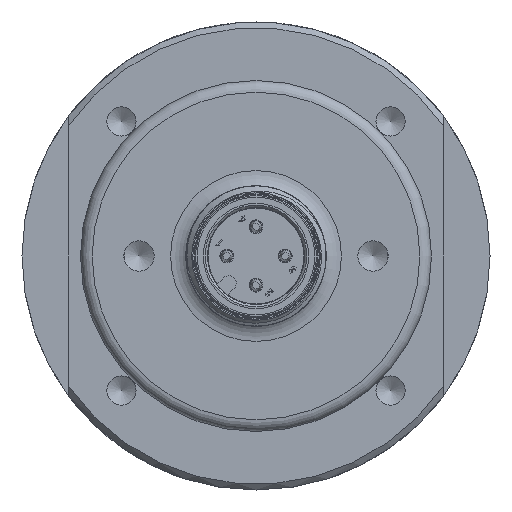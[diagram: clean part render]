
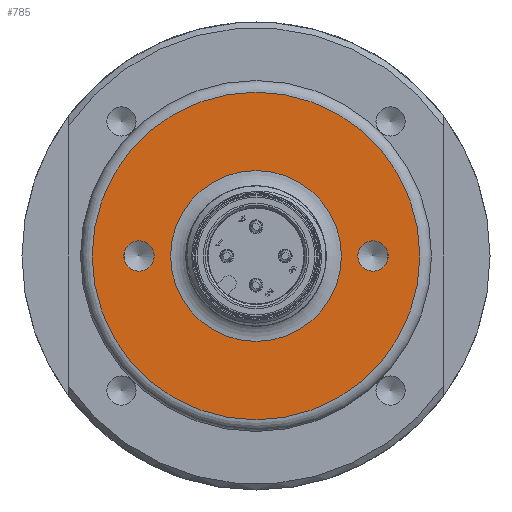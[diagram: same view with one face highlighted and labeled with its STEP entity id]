
A CAD part, front view. The second image highlights one B-rep face of the part: STEP entity #785.
In plain terms, the highlighted planar face has unit normal (0, -1, 0) as drawn and (0, 1, 0) by its records, which use the part's own axes.
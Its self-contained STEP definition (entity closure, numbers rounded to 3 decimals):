
#785 = ADVANCED_FACE( '', ( #1564, #1565, #1566, #1567 ), #1568, .T. );
#1564 = FACE_BOUND( '', #5793, .T. );
#1565 = FACE_OUTER_BOUND( '', #5794, .T. );
#1566 = FACE_BOUND( '', #5795, .T. );
#1567 = FACE_BOUND( '', #5796, .T. );
#1568 = PLANE( '', #5797 );
#5793 = EDGE_LOOP( '', ( #7882 ) );
#5794 = EDGE_LOOP( '', ( #7883 ) );
#5795 = EDGE_LOOP( '', ( #7884 ) );
#5796 = EDGE_LOOP( '', ( #7885 ) );
#5797 = AXIS2_PLACEMENT_3D( '', #7886, #7887, #7888 );
#7882 = ORIENTED_EDGE( '', *, *, #8627, .T. );
#7883 = ORIENTED_EDGE( '', *, *, #8685, .T. );
#7884 = ORIENTED_EDGE( '', *, *, #8427, .T. );
#7885 = ORIENTED_EDGE( '', *, *, #8741, .T. );
#7886 = CARTESIAN_POINT( '', ( -15., -2.104, 0. ) );
#7887 = DIRECTION( '', ( 0., 1., 0. ) );
#7888 = DIRECTION( '', ( -1., 0., 0. ) );
#8427 = EDGE_CURVE( '', #9061, #9061, #9062, .T. );
#8627 = EDGE_CURVE( '', #9397, #9397, #9398, .F. );
#8685 = EDGE_CURVE( '', #9492, #9492, #9493, .T. );
#8741 = EDGE_CURVE( '', #9578, #9578, #9579, .T. );
#9061 = VERTEX_POINT( '', #9981 );
#9062 = CIRCLE( '', #9982, 1.3 );
#9397 = VERTEX_POINT( '', #11957 );
#9398 = CIRCLE( '', #11958, 7.3 );
#9492 = VERTEX_POINT( '', #12578 );
#9493 = CIRCLE( '', #12579, 14. );
#9578 = VERTEX_POINT( '', #12817 );
#9579 = CIRCLE( '', #12818, 1.3 );
#9981 = CARTESIAN_POINT( '', ( -1.3, -2.104, -10. ) );
#9982 = AXIS2_PLACEMENT_3D( '', #14015, #14016, #14017 );
#11957 = CARTESIAN_POINT( '', ( -7.3, -2.104, 0. ) );
#11958 = AXIS2_PLACEMENT_3D( '', #14234, #14235, #14236 );
#12578 = CARTESIAN_POINT( '', ( -14., -2.104, 0. ) );
#12579 = AXIS2_PLACEMENT_3D( '', #14292, #14293, #14294 );
#12817 = CARTESIAN_POINT( '', ( -1.3, -2.104, 10. ) );
#12818 = AXIS2_PLACEMENT_3D( '', #14360, #14361, #14362 );
#14015 = CARTESIAN_POINT( '', ( 0., -2.104, -10. ) );
#14016 = DIRECTION( '', ( 0., -1., 0. ) );
#14017 = DIRECTION( '', ( -1., 0., 0. ) );
#14234 = CARTESIAN_POINT( '', ( 0., -2.104, 0. ) );
#14235 = DIRECTION( '', ( 0., 1., 0. ) );
#14236 = DIRECTION( '', ( -1., 0., 0. ) );
#14292 = CARTESIAN_POINT( '', ( 0., -2.104, 0. ) );
#14293 = DIRECTION( '', ( 0., 1., 0. ) );
#14294 = DIRECTION( '', ( -1., 0., 0. ) );
#14360 = CARTESIAN_POINT( '', ( 0., -2.104, 10. ) );
#14361 = DIRECTION( '', ( 0., -1., 0. ) );
#14362 = DIRECTION( '', ( -1., 0., 0. ) );
